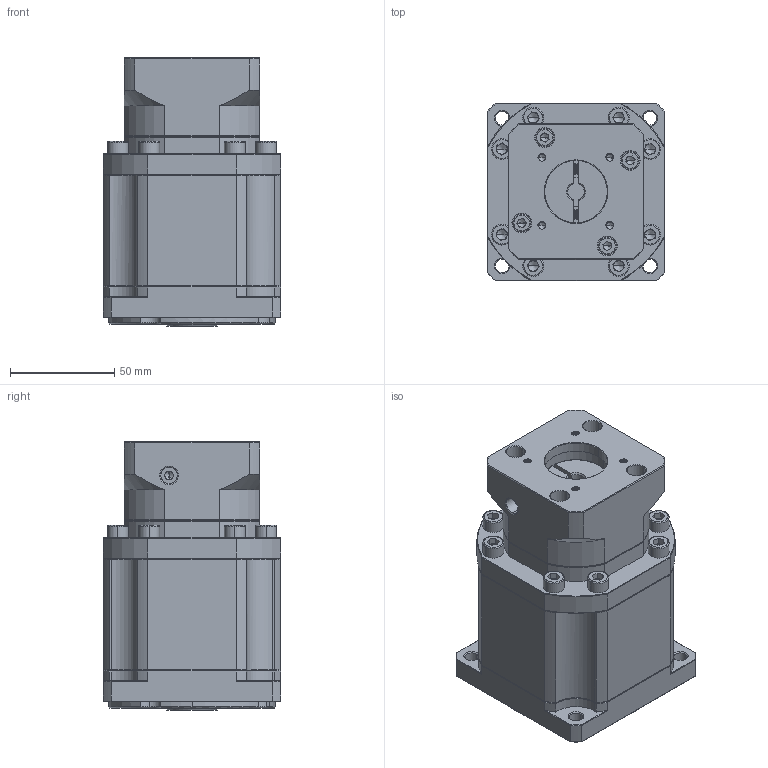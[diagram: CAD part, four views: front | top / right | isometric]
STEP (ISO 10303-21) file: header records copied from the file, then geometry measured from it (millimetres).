
FILE_DESCRIPTION (( 'STEP AP214' ), '1' );
FILE_NAME ('ZB90-K15-L3-8-30-46-M4.STEP', '2022-05-02T15:09:54', ( '' ), ( 'Microsoft' ), 'SwSTEP 2.0', 'SolidWorks 2016', '' );
FILE_SCHEMA (( 'AUTOMOTIVE_DESIGN' ));
Length unit declared in the file: millimetre
Products named in the file (1): ZB90-K15-L3-8-30-46-M4
Bounding box: 85 x 85 x 128.5 mm (x, y, z)
Volume: 654145.9 mm3; surface area: 81133 mm2
Topology: 6 solids, 6 shells, 2023 faces, 5309 edges, 3376 vertices
Faces by surface type: plane 998, cylinder 367, cone 318, bspline 318, torus 22
Entity records: 101066 total; most frequent: CARTESIAN_POINT 31403, ORIENTED_EDGE 10530, DIRECTION 8766, EDGE_CURVE 5265, VERTEX_POINT 3376, VECTOR 3260, LINE 3260, AXIS2_PLACEMENT_3D 2753
